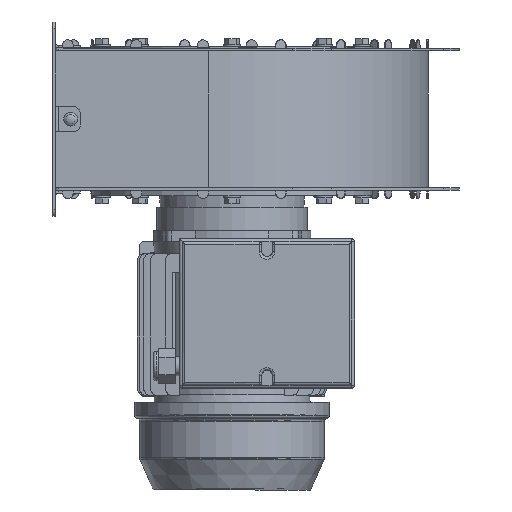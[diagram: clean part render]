
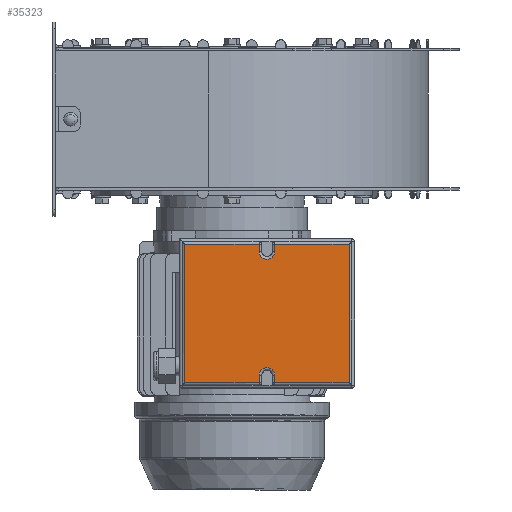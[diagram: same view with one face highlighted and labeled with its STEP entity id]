
A CAD part, front view. The second image highlights one B-rep face of the part: STEP entity #35323.
In plain terms, the highlighted planar face has unit normal (0, -1, 0).
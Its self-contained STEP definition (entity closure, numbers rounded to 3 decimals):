
#2559=LINE('',#55725,#5519);
#2560=LINE('',#55736,#5520);
#2567=LINE('',#55775,#5527);
#2568=LINE('',#55779,#5528);
#2569=LINE('',#55781,#5529);
#2570=LINE('',#55783,#5530);
#2571=LINE('',#55785,#5531);
#2572=LINE('',#55789,#5532);
#2573=LINE('',#55791,#5533);
#2574=LINE('',#55792,#5534);
#5519=VECTOR('',#44868,0.525);
#5520=VECTOR('',#44881,0.525);
#5527=VECTOR('',#44906,5.425);
#5528=VECTOR('',#44911,5.425);
#5529=VECTOR('',#44912,10.1);
#5530=VECTOR('',#44913,5.425);
#5531=VECTOR('',#44914,0.525);
#5532=VECTOR('',#44917,0.525);
#5533=VECTOR('',#44918,5.425);
#5534=VECTOR('',#44919,10.1);
#7353=PLANE('',#37970);
#10119=FACE_OUTER_BOUND('',#12611,.T.);
#12611=EDGE_LOOP('',(#28087,#28088,#28089,#28090,#28091,#28092,#28093,#28094,
#28095,#28096,#28097,#28098));
#14285=CIRCLE('',#37956,0.575);
#14292=CIRCLE('',#37971,0.575);
#16692=VERTEX_POINT('',#55719);
#16694=VERTEX_POINT('',#55723);
#16696=VERTEX_POINT('',#55728);
#16698=VERTEX_POINT('',#55734);
#16705=VERTEX_POINT('',#55774);
#16706=VERTEX_POINT('',#55778);
#16707=VERTEX_POINT('',#55780);
#16708=VERTEX_POINT('',#55782);
#16709=VERTEX_POINT('',#55784);
#16710=VERTEX_POINT('',#55786);
#16711=VERTEX_POINT('',#55788);
#16712=VERTEX_POINT('',#55790);
#20710=EDGE_CURVE('',#16694,#16692,#2559,.T.);
#20712=EDGE_CURVE('',#16696,#16694,#14285,.T.);
#20715=EDGE_CURVE('',#16698,#16696,#2560,.T.);
#20727=EDGE_CURVE('',#16692,#16705,#2567,.T.);
#20729=EDGE_CURVE('',#16706,#16698,#2568,.T.);
#20730=EDGE_CURVE('',#16707,#16706,#2569,.T.);
#20731=EDGE_CURVE('',#16708,#16707,#2570,.T.);
#20732=EDGE_CURVE('',#16709,#16708,#2571,.T.);
#20733=EDGE_CURVE('',#16710,#16709,#14292,.T.);
#20734=EDGE_CURVE('',#16711,#16710,#2572,.T.);
#20735=EDGE_CURVE('',#16712,#16711,#2573,.T.);
#20736=EDGE_CURVE('',#16705,#16712,#2574,.T.);
#28087=ORIENTED_EDGE('',*,*,#20710,.F.);
#28088=ORIENTED_EDGE('',*,*,#20712,.F.);
#28089=ORIENTED_EDGE('',*,*,#20715,.F.);
#28090=ORIENTED_EDGE('',*,*,#20729,.F.);
#28091=ORIENTED_EDGE('',*,*,#20730,.F.);
#28092=ORIENTED_EDGE('',*,*,#20731,.F.);
#28093=ORIENTED_EDGE('',*,*,#20732,.F.);
#28094=ORIENTED_EDGE('',*,*,#20733,.F.);
#28095=ORIENTED_EDGE('',*,*,#20734,.F.);
#28096=ORIENTED_EDGE('',*,*,#20735,.F.);
#28097=ORIENTED_EDGE('',*,*,#20736,.F.);
#28098=ORIENTED_EDGE('',*,*,#20727,.F.);
#35323=ADVANCED_FACE('',(#10119),#7353,.T.);
#37956=AXIS2_PLACEMENT_3D('',#55730,#44873,#44874);
#37970=AXIS2_PLACEMENT_3D('',#55777,#44909,#44910);
#37971=AXIS2_PLACEMENT_3D('',#55787,#44915,#44916);
#44868=DIRECTION('',(0.,0.,1.));
#44873=DIRECTION('center_axis',(0.,-1.,0.));
#44874=DIRECTION('ref_axis',(0.,0.,
-1.));
#44881=DIRECTION('',(0.,0.,-1.));
#44906=DIRECTION('',(1.,0.,0.));
#44909=DIRECTION('center_axis',(0.,-1.,0.));
#44910=DIRECTION('ref_axis',(0.,0.,1.));
#44911=DIRECTION('',(1.,0.,0.));
#44912=DIRECTION('',(0.,0.,1.));
#44913=DIRECTION('',(-1.,0.,0.));
#44914=DIRECTION('',(0.,0.,-1.));
#44915=DIRECTION('center_axis',(0.,-1.,0.));
#44916=DIRECTION('ref_axis',(0.,0.,
1.));
#44917=DIRECTION('',(0.,0.,1.));
#44918=DIRECTION('',(-1.,0.,0.));
#44919=DIRECTION('',(0.,0.,-1.));
#55719=CARTESIAN_POINT('',(3.125,-13.3,-3.95));
#55723=CARTESIAN_POINT('',(3.125,-13.3,-4.475));
#55725=CARTESIAN_POINT('',(3.125,-13.3,-4.113));
#55728=CARTESIAN_POINT('',(1.975,-13.3,-4.475));
#55730=CARTESIAN_POINT('Origin',(2.55,-13.3,-4.475));
#55734=CARTESIAN_POINT('',(1.975,-13.3,-3.95));
#55736=CARTESIAN_POINT('',(1.975,-13.3,-3.75));
#55774=CARTESIAN_POINT('',(8.55,-13.3,-3.95));
#55775=CARTESIAN_POINT('',(5.1,-13.3,-3.95));
#55777=CARTESIAN_POINT('Origin',(6.55,-13.3,-3.75));
#55778=CARTESIAN_POINT('',(-3.45,-13.3,-3.95));
#55779=CARTESIAN_POINT('',(5.1,-13.3,-3.95));
#55780=CARTESIAN_POINT('',(-3.45,-13.3,-14.05));
#55781=CARTESIAN_POINT('',(-3.45,-13.3,-3.75));
#55782=CARTESIAN_POINT('',(1.975,-13.3,-14.05));
#55783=CARTESIAN_POINT('',(7.1,-13.3,-14.05));
#55784=CARTESIAN_POINT('',(1.975,-13.3,-13.525));
#55785=CARTESIAN_POINT('',(1.975,-13.3,-8.638));
#55786=CARTESIAN_POINT('',(3.125,-13.3,-13.525));
#55787=CARTESIAN_POINT('Origin',(2.55,-13.3,-13.525));
#55788=CARTESIAN_POINT('',(3.125,-13.3,-14.05));
#55789=CARTESIAN_POINT('',(3.125,-13.3,-9.));
#55790=CARTESIAN_POINT('',(8.55,-13.3,-14.05));
#55791=CARTESIAN_POINT('',(7.1,-13.3,-14.05));
#55792=CARTESIAN_POINT('',(8.55,-13.3,-3.75));
